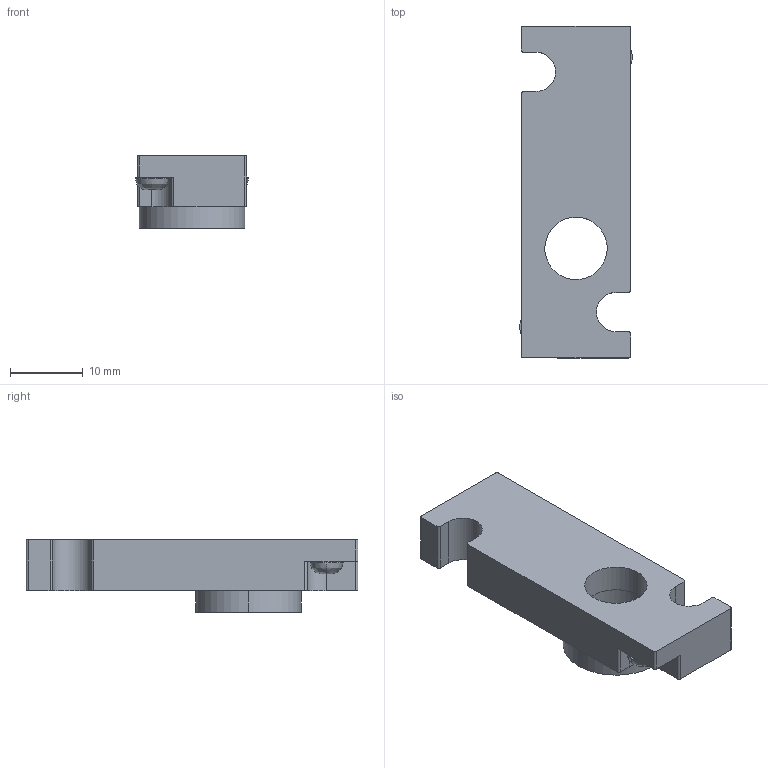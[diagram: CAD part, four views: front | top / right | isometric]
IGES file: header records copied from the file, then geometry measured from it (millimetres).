
Start section: ------------------------------------------------------------------------
Global section: file name: D:\ICADMX\tmp\trans3d_spg\CVICAD02.4536.F15_port-VMB_18030.igs; native system: spGate; preprocessor: ver12.6.6; author: Unknown; organization: Unknown; date: 210712.185506; units: millimetre
Bounding box: 15.5 x 45.6 x 10 mm (x, y, z)
Volume: 4101 mm3; surface area: 2540.1 mm2
Topology: 1 solids, 1 shells, 56 faces, 146 edges, 94 vertices
Faces by surface type: bspline 56
